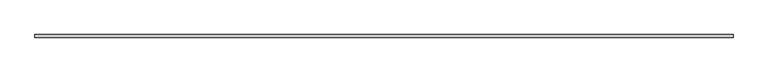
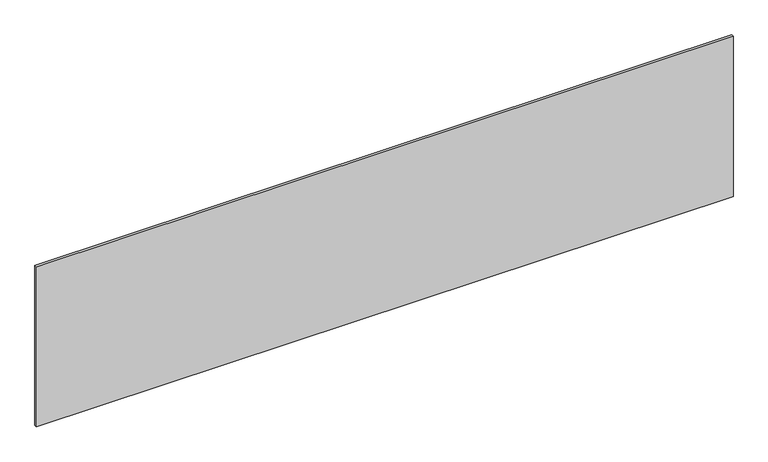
"""IFC4 building model written with IfcOpenShell, lengths in millimetres: proxy geometry, SU.HS.FOOT.2500."""

from ifc_helpers import new_model, si_unit, frame, origin, place, context, project, spatial, polyline, outline, extrude, source, transform, mapped, element, save


def generic_models_cfe88e4f(model_context):
    return source(origin(), model_context, "Body", "SweptSolid", [
        extrude(outline(polyline([(-1337.0, 0.0), (1337.0, 0.0), (1337.0, -10.0), (-1337.0, -10.0), (-1337.0, 0.0)])), frame((0.0, 0.0, -100.0), z_axis=(0.0, 0.0, 1.0), x_axis=(1.0, 0.0, 0.0)), (0.0, 0.0, 1.0), 650.0),
    ])


if __name__ == "__main__":
    model = new_model("IFC4")
    model_context = context("Model", 3, world=origin())
    ifc_project = project(units=[si_unit("LENGTHUNIT", "METRE", prefix="MILLI")], contexts=[model_context])
    site = spatial("IfcSite", under=ifc_project)
    building = spatial("IfcBuilding", under=site)
    placement = place(None, origin())
    generic_models_shape = generic_models_cfe88e4f(model_context)
    element("IfcBuildingElementProxy", 1, Name="SU.HS.FOOT.2500", ObjectType="SU.HS.FOOT.2500", at=placement, inside=building, context=model_context, shape_type="MappedRepresentation", body=[
        mapped(generic_models_shape, transform((0.0, 0.0, 0.0), x_axis=(1.0, 0.0, 0.0), y_axis=(0.0, 1.0, 0.0), z_axis=(0.0, 0.0, 1.0))),
    ])
    save(model, "model.ifc")
